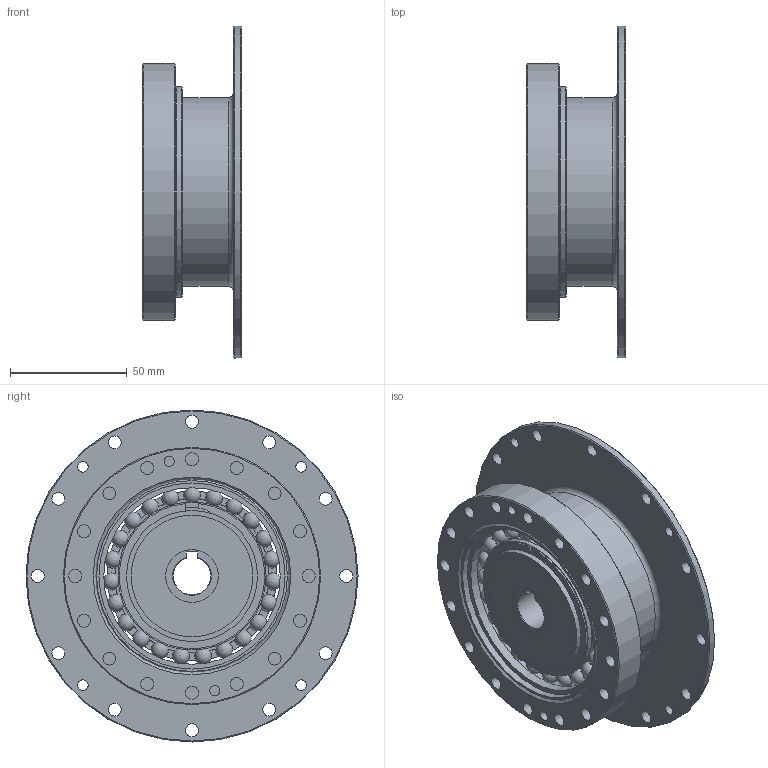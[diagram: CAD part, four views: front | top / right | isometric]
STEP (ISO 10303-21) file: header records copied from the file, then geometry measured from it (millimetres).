
FILE_DESCRIPTION(/* description */ (''),/* implementation_level */ '2;1');
FILE_NAME(/* name */ 'Getriebeset_HTG_81_FK.stp',/* time_stamp */ '2026-03-09T10:59:46+01:00',/* author */ (''),/* organization */ (''),/* preprocessor_version */ 'ST-DEVELOPER v19.4',/* originating_system */ 'SIEMENS PLM Software NX2212.9120',/* authorisation */ '');
FILE_SCHEMA (('AUTOMOTIVE_DESIGN { 1 0 10303 214 3 1 1 1 }'));
Length unit declared in the file: millimetre
Products named in the file (1): Getriebeset_HTG_81_FK
Bounding box: 42.4 x 142 x 142 mm (x, y, z)
Volume: 143942 mm3; surface area: 95939.4 mm2
Topology: 30 solids, 30 shells, 232 faces, 664 edges, 454 vertices
Faces by surface type: cylinder 97, plane 69, sphere 27, bspline 21, cone 12, torus 6
Full cylindrical faces by diameter (mm): 4.3 x2, 4.5 x4, 5.5 x28, 22.5 x1, 52 x1, 54.06 x1, 56 x1, 59 x2, 63 x1, 63.3 x2, 70 x1, 75.5 x2, 79.6 x2, 80.74 x1, 81.5 x1, 83.21 x1, 90 x1, 110 x1, 114 x1, 142 x1
Entity records: 8716 total; most frequent: CARTESIAN_POINT 3378, DIRECTION 999, ORIENTED_EDGE 934, EDGE_CURVE 467, AXIS2_PLACEMENT_3D 452, VERTEX_POINT 376, EDGE_LOOP 370, FACE_BOUND 277
